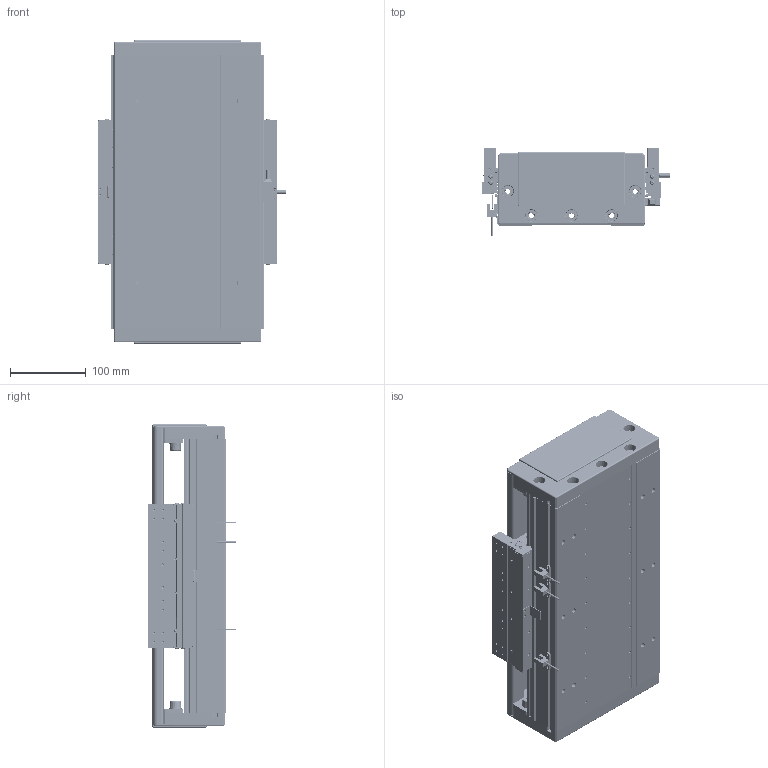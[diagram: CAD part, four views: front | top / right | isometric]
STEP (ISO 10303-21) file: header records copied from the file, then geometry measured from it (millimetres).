
FILE_DESCRIPTION (( 'STEP AP203' ), '1' );
FILE_NAME ('DA-C195-C2-T120-C010-0.2 眻盄萇儂.STEP', '2025-08-15T00:57:31', ( '' ), ( '' ), 'SwSTEP 2.0', 'SolidWorks 2019', '' );
FILE_SCHEMA (( 'CONFIG_CONTROL_DESIGN' ));
Length unit declared in the file: millimetre
Products named in the file (12): PM-T45ㄗ侂狟ㄘ; LMT黍杅芛; IU-CU195-L-00 菁釱(L360); IU-CU195-L 菁釱絳寢; MS200 棠掑喜S315-T240; 葩璃 DA95-GT-T-00; DA195-DG-H-00  端盖（压铸镂空版）; 66156-0001-003-00 裔啣; DA-C195-C2-T120-C010-0.2 眻盄萇儂; DA95-HXJ-00 遣喳砎蝶; 66156-0001-005-00 光电感应片(默认); CU195-C2賑輸-俋楷
Assembly tree (20 placements, depth 3):
  DA-C195-C2-T120-C010-0.2 眻盄萇儂
    IU-CU195-L 菁釱絳寢
      IU-CU195-L-00 菁釱(L360)
      葩璃 DA95-GT-T-00  x4
    LMT黍杅芛
    MS200 棠掑喜S315-T240
    PM-T45ㄗ侂狟ㄘ  x3
    66156-0001-005-00 光电感应片(默认)
    DA195-DG-H-00  端盖（压铸镂空版）  x2
    DA95-HXJ-00 遣喳砎蝶  x4
    66156-0001-003-00 裔啣
    CU195-C2賑輸-俋楷
Bounding box: 248 x 115.6 x 400 mm (x, y, z)
Volume: 3772337.4 mm3; surface area: 1048634.3 mm2
Topology: 58 solids, 130 shells, 4913 faces, 12116 edges, 7289 vertices
Faces by surface type: cylinder 1941, plane 1622, bspline 710, cone 560, torus 44, sphere 36
Entity records: 127599 total; most frequent: CARTESIAN_POINT 38207, ORIENTED_EDGE 18286, DIRECTION 18184, EDGE_CURVE 9143, AXIS2_PLACEMENT_3D 6743, VERTEX_POINT 5719, VECTOR 4698, LINE 4698
